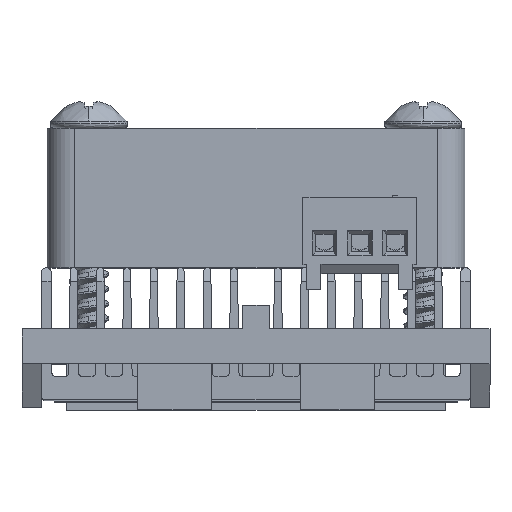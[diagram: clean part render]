
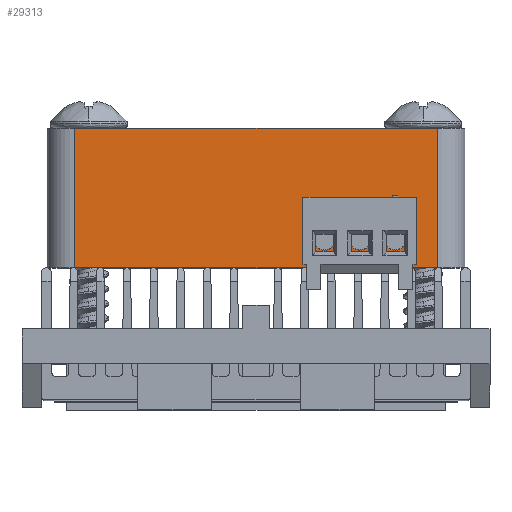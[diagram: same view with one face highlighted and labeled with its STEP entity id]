
A CAD part, top view. The second image highlights one B-rep face of the part: STEP entity #29313.
In plain terms, the highlighted planar face has unit normal (0, 0, 1).
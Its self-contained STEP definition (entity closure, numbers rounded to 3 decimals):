
#57 = CARTESIAN_POINT ( 'NONE',  ( 9.24, 11.5, 15. ) ) ;
#176 = ORIENTED_EDGE ( 'NONE', *, *, #11095, .F. ) ;
#216 = CARTESIAN_POINT ( 'NONE',  ( -13., 9.5, 15. ) ) ;
#335 = FACE_OUTER_BOUND ( 'NONE', #41751, .T. ) ;
#579 = FACE_BOUND ( 'NONE', #37746, .T. ) ;
#1585 = DIRECTION ( 'NONE',  ( -1., 0., 0. ) ) ;
#1816 = DIRECTION ( 'NONE',  ( -1., 0., 0. ) ) ;
#2481 = EDGE_CURVE ( 'NONE', #6250, #13025, #30564, .T. ) ;
#2787 = AXIS2_PLACEMENT_3D ( 'NONE', #47006, #5513, #20846 ) ;
#2918 = CIRCLE ( 'NONE', #15401, 0.76 ) ;
#3235 = EDGE_LOOP ( 'NONE', ( #29946, #41326 ) ) ;
#3987 = DIRECTION ( 'NONE',  ( 0., 0., -1. ) ) ;
#4270 = DIRECTION ( 'NONE',  ( -1., 0., 0. ) ) ;
#4747 = CARTESIAN_POINT ( 'NONE',  ( 7.46, 11.5, 15. ) ) ;
#5513 = DIRECTION ( 'NONE',  ( 0., 0., 1. ) ) ;
#6132 = DIRECTION ( 'NONE',  ( 0., 0., 1. ) ) ;
#6250 = VERTEX_POINT ( 'NONE', #33072 ) ;
#6308 = CARTESIAN_POINT ( 'NONE',  ( 4.16, 11.5, 15. ) ) ;
#6329 = DIRECTION ( 'NONE',  ( 0., 0., 1. ) ) ;
#6681 = CIRCLE ( 'NONE', #38638, 0.76 ) ;
#6905 = CIRCLE ( 'NONE', #28729, 0.76 ) ;
#7183 = CARTESIAN_POINT ( 'NONE',  ( 4.92, 11.5, 15. ) ) ;
#8514 = CARTESIAN_POINT ( 'NONE',  ( -13., 9.5, 15. ) ) ;
#10826 = CARTESIAN_POINT ( 'NONE',  ( -13., 19.5, 15. ) ) ;
#11095 = EDGE_CURVE ( 'NONE', #25290, #46073, #30546, .T. ) ;
#12735 = VERTEX_POINT ( 'NONE', #6308 ) ;
#13025 = VERTEX_POINT ( 'NONE', #30415 ) ;
#14564 = EDGE_CURVE ( 'NONE', #30370, #40882, #45042, .T. ) ;
#14970 = FACE_BOUND ( 'NONE', #29695, .T. ) ;
#14976 = AXIS2_PLACEMENT_3D ( 'NONE', #39551, #6132, #35896 ) ;
#15401 = AXIS2_PLACEMENT_3D ( 'NONE', #4747, #23720, #1816 ) ;
#15568 = VERTEX_POINT ( 'NONE', #216 ) ;
#17225 = CARTESIAN_POINT ( 'NONE',  ( -13., 19.5, 15. ) ) ;
#17797 = DIRECTION ( 'NONE',  ( -1., 0., 0. ) ) ;
#18100 = EDGE_CURVE ( 'NONE', #46073, #25290, #38646, .T. ) ;
#18280 = LINE ( 'NONE', #8514, #47569 ) ;
#18810 = EDGE_CURVE ( 'NONE', #34414, #6250, #32770, .T. ) ;
#19782 = DIRECTION ( 'NONE',  ( 0., -1., 0. ) ) ;
#20633 = VERTEX_POINT ( 'NONE', #35120 ) ;
#20846 = DIRECTION ( 'NONE',  ( -1., 0., 0. ) ) ;
#21294 = CARTESIAN_POINT ( 'NONE',  ( -13., 19.5, 15. ) ) ;
#21531 = DIRECTION ( 'NONE',  ( 1., 0., 0. ) ) ;
#21910 = VECTOR ( 'NONE', #19782, 1000. ) ;
#22784 = CARTESIAN_POINT ( 'NONE',  ( 6.7, 11.5, 15. ) ) ;
#23172 = AXIS2_PLACEMENT_3D ( 'NONE', #31550, #46482, #1585 ) ;
#23720 = DIRECTION ( 'NONE',  ( 0., 0., 1. ) ) ;
#24064 = ORIENTED_EDGE ( 'NONE', *, *, #2481, .F. ) ;
#25239 = LINE ( 'NONE', #17225, #33450 ) ;
#25290 = VERTEX_POINT ( 'NONE', #43545 ) ;
#27397 = CARTESIAN_POINT ( 'NONE',  ( 8.22, 11.5, 15. ) ) ;
#27434 = CARTESIAN_POINT ( 'NONE',  ( -13., 19.5, 15. ) ) ;
#28228 = EDGE_CURVE ( 'NONE', #34414, #15568, #25239, .T. ) ;
#28229 = DIRECTION ( 'NONE',  ( 0., -1., 0. ) ) ;
#28729 = AXIS2_PLACEMENT_3D ( 'NONE', #36093, #6329, #17797 ) ;
#29313 = ADVANCED_FACE ( 'NONE', ( #335, #14970, #40825, #579 ), #33957, .F. ) ;
#29695 = EDGE_LOOP ( 'NONE', ( #32702, #176 ) ) ;
#29946 = ORIENTED_EDGE ( 'NONE', *, *, #14564, .F. ) ;
#30370 = VERTEX_POINT ( 'NONE', #22784 ) ;
#30415 = CARTESIAN_POINT ( 'NONE',  ( 13., 9.5, 15. ) ) ;
#30546 = CIRCLE ( 'NONE', #14976, 0.76 ) ;
#30564 = LINE ( 'NONE', #38356, #21910 ) ;
#31550 = CARTESIAN_POINT ( 'NONE',  ( 7.46, 11.5, 15. ) ) ;
#31598 = EDGE_CURVE ( 'NONE', #12735, #20633, #6681, .T. ) ;
#32702 = ORIENTED_EDGE ( 'NONE', *, *, #18100, .F. ) ;
#32770 = LINE ( 'NONE', #21294, #43451 ) ;
#32998 = DIRECTION ( 'NONE',  ( -1., 0., 0. ) ) ;
#33072 = CARTESIAN_POINT ( 'NONE',  ( 13., 19.5, 15. ) ) ;
#33450 = VECTOR ( 'NONE', #28229, 1000. ) ;
#33957 = PLANE ( 'NONE',  #36880 ) ;
#34414 = VERTEX_POINT ( 'NONE', #27434 ) ;
#35120 = CARTESIAN_POINT ( 'NONE',  ( 5.68, 11.5, 15. ) ) ;
#35896 = DIRECTION ( 'NONE',  ( -1., 0., 0. ) ) ;
#36093 = CARTESIAN_POINT ( 'NONE',  ( 4.92, 11.5, 15. ) ) ;
#36880 = AXIS2_PLACEMENT_3D ( 'NONE', #10826, #3987, #32998 ) ;
#37628 = ORIENTED_EDGE ( 'NONE', *, *, #18810, .F. ) ;
#37746 = EDGE_LOOP ( 'NONE', ( #44099, #42112 ) ) ;
#37789 = EDGE_CURVE ( 'NONE', #15568, #13025, #18280, .T. ) ;
#38356 = CARTESIAN_POINT ( 'NONE',  ( 13., 19.5, 15. ) ) ;
#38638 = AXIS2_PLACEMENT_3D ( 'NONE', #7183, #40862, #4270 ) ;
#38646 = CIRCLE ( 'NONE', #2787, 0.76 ) ;
#39324 = EDGE_CURVE ( 'NONE', #20633, #12735, #6905, .T. ) ;
#39551 = CARTESIAN_POINT ( 'NONE',  ( 10., 11.5, 15. ) ) ;
#40825 = FACE_BOUND ( 'NONE', #3235, .T. ) ;
#40862 = DIRECTION ( 'NONE',  ( 0., 0., 1. ) ) ;
#40882 = VERTEX_POINT ( 'NONE', #27397 ) ;
#41261 = ORIENTED_EDGE ( 'NONE', *, *, #28228, .T. ) ;
#41326 = ORIENTED_EDGE ( 'NONE', *, *, #47638, .F. ) ;
#41495 = DIRECTION ( 'NONE',  ( 1., 0., 0. ) ) ;
#41751 = EDGE_LOOP ( 'NONE', ( #43436, #24064, #37628, #41261 ) ) ;
#42112 = ORIENTED_EDGE ( 'NONE', *, *, #39324, .F. ) ;
#43436 = ORIENTED_EDGE ( 'NONE', *, *, #37789, .T. ) ;
#43451 = VECTOR ( 'NONE', #21531, 1000. ) ;
#43545 = CARTESIAN_POINT ( 'NONE',  ( 10.76, 11.5, 15. ) ) ;
#44099 = ORIENTED_EDGE ( 'NONE', *, *, #31598, .F. ) ;
#45042 = CIRCLE ( 'NONE', #23172, 0.76 ) ;
#46073 = VERTEX_POINT ( 'NONE', #57 ) ;
#46482 = DIRECTION ( 'NONE',  ( 0., 0., 1. ) ) ;
#47006 = CARTESIAN_POINT ( 'NONE',  ( 10., 11.5, 15. ) ) ;
#47569 = VECTOR ( 'NONE', #41495, 1000. ) ;
#47638 = EDGE_CURVE ( 'NONE', #40882, #30370, #2918, .T. ) ;
